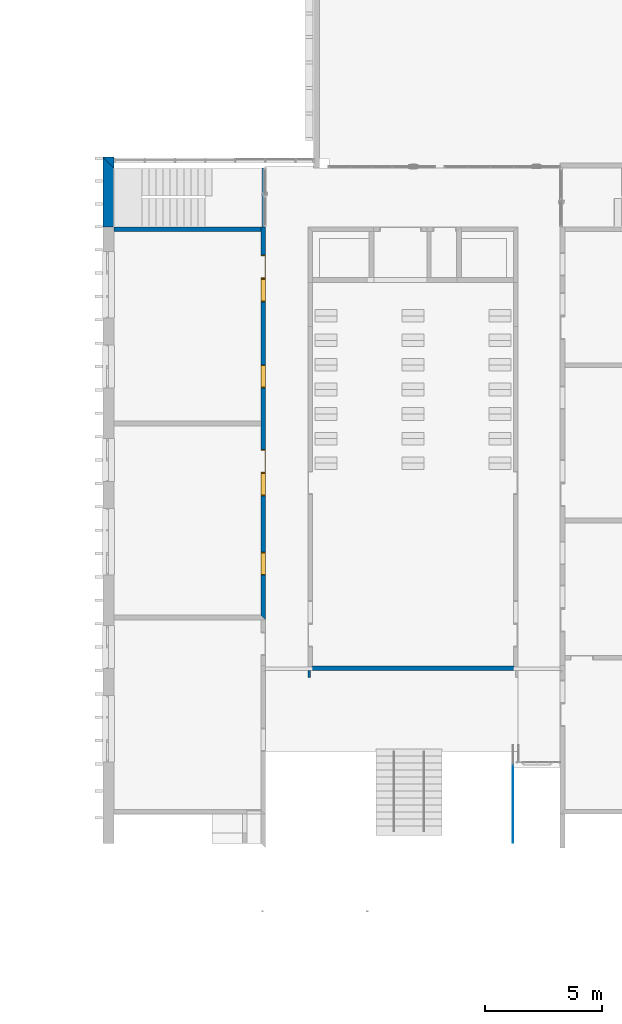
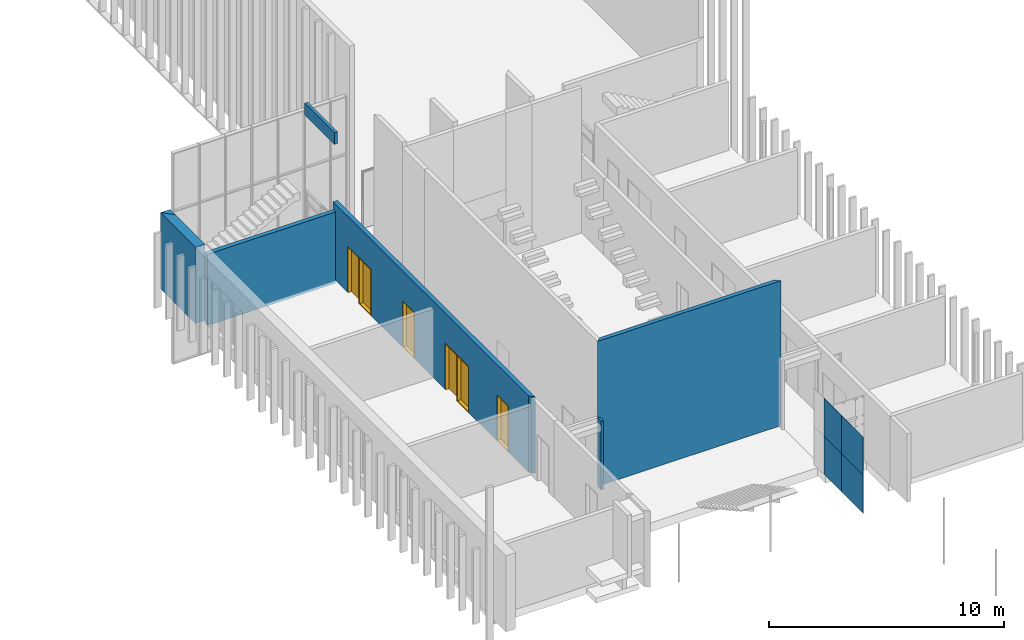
# One storey, part 11 of 62: 11 walls, 4 windows, 2 doors, 6 openings.
"""IFC2X3 building model written with IfcOpenShell, lengths in millimetres."""

from ifc_helpers import new_model, entity, si_unit, converted_unit, derived_unit, money_unit, direction, frame, origin_with_axes, origin_2d_with_axis, place, context, subcontext, project, spatial, polyline, rectangle, outline, extrude, open_shell, faceted_brep, surface_model, source, transform, mapped, material, layer, layer_set, layer_usage, type_object, element, fill, save


model = new_model("IFC2X3")

# Units and contexts
model_context = context("Model", 3, precision=0.01, world=origin_with_axes(), true_north=direction((0.0, 1.0)))
body_context = subcontext(model_context, "Body", "Model", "MODEL_VIEW")
ifc_project = project(units=[si_unit("LENGTHUNIT", "METRE", prefix="MILLI"), si_unit("AREAUNIT", "SQUARE_METRE"), si_unit("VOLUMEUNIT", "CUBIC_METRE"), converted_unit("PLANEANGLEUNIT", "DEGREE", entity("IfcPlaneAngleMeasure", 0.0174532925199), si_unit("PLANEANGLEUNIT", "RADIAN"), dimensions=[0, 0, 0, 0, 0, 0, 0]), si_unit("SOLIDANGLEUNIT", "STERADIAN"), money_unit("EUR"), converted_unit("TIMEUNIT", "Year", entity("IfcTimeMeasure", 31556926.0), si_unit("TIMEUNIT", "SECOND"), dimensions=[0, 0, 1, 0, 0, 0, 0]), si_unit("MASSUNIT", "GRAM", prefix="KILO"), si_unit("THERMODYNAMICTEMPERATUREUNIT", "DEGREE_CELSIUS"), si_unit("LUMINOUSINTENSITYUNIT", "LUMEN"), si_unit("ENERGYUNIT", "JOULE", prefix="MEGA"), derived_unit("THERMALCONDUCTANCEUNIT", [(si_unit("POWERUNIT", "WATT"), 1), (si_unit("LENGTHUNIT", "METRE"), -1), (si_unit("THERMODYNAMICTEMPERATUREUNIT", "KELVIN"), -1)]), derived_unit("SPECIFICHEATCAPACITYUNIT", [(si_unit("ENERGYUNIT", "JOULE"), 1), (si_unit("MASSUNIT", "GRAM", prefix="KILO"), -1), (si_unit("THERMODYNAMICTEMPERATUREUNIT", "KELVIN"), -1)]), derived_unit("MASSDENSITYUNIT", [(si_unit("MASSUNIT", "GRAM", prefix="KILO"), 1), (si_unit("VOLUMEUNIT", "CUBIC_METRE"), -1)])], contexts=[model_context])

# Site, building, storey
site_placement = place(None, origin_with_axes())
site = spatial("IfcSite", under=ifc_project, at=site_placement, Name="Puškini 31, Narva", CompositionType="ELEMENT")
building_placement = place(site_placement, origin_with_axes())
building = spatial("IfcBuilding", under=site, at=building_placement, Name="Narva Riigigümnaasium", CompositionType="ELEMENT")
storey_placement = place(building_placement, frame((0.0, 0.0, 660.0), z_axis=(0.0, 0.0, 1.0), x_axis=(1.0, 0.0, 0.0)))
storey = spatial("IfcBuildingStorey", under=building, at=storey_placement, Name="2.korrus +0.66", CompositionType="ELEMENT", Elevation=660.0)

# Walls
ifc_material_1 = material(Name="Betoon element")
ifc_layer_1 = layer(ifc_material_1, 200.0, ventilated="UNKNOWN")
ifc_layer_set_1 = layer_set([ifc_layer_1], Name="G-SS-01")
ifc_layer_usage_1 = layer_usage(ifc_layer_set_1, "AXIS2", "POSITIVE", 0.0)
wall_type_1 = type_object("IfcWallType", Name="G-SS-01 200", PredefinedType="NOTDEFINED")
wall_1_placement = place(storey_placement, frame((36699.9999995, 202300.000012, 0.0), z_axis=(0.0, 0.0, 1.0), x_axis=(1.0, 0.0, 0.0)))
element("IfcWallStandardCase", 1, at=wall_1_placement, inside=storey, type_object=wall_type_1, material=ifc_layer_usage_1, Name="Sisesein", context=body_context, shape_type="SweptSolid", body=[
    extrude(outline(polyline([(0.0, 0.0), (9000.00000063, 0.0), (8800.00000063, 200.0), (199.999999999, 200.0), (0.0, 0.0)])), origin_with_axes(), (0.0, 0.0, 1.0), 7520.0),
])
ifc_material_2 = material(Name="fassaadiplaat")
ifc_layer_2 = layer(ifc_material_2, 8.0, ventilated="UNKNOWN")
ifc_material_3 = material(Name="Salto-roovitus")
ifc_layer_3 = layer(ifc_material_3, 50.0, ventilated="UNKNOWN")
ifc_material_4 = material(Name="Salto-PIR soojustus")
ifc_layer_4 = layer(ifc_material_4, 50.0, ventilated="UNKNOWN")
ifc_layer_5 = layer(ifc_material_4, 150.0, ventilated="UNKNOWN")
ifc_layer_set_2 = layer_set([ifc_layer_2, ifc_layer_3, ifc_layer_4, ifc_layer_5, ifc_layer_1], Name="G-VS-01-01")
ifc_layer_usage_2 = layer_usage(ifc_layer_set_2, "AXIS2", "NEGATIVE", 458.0)
wall_type_2 = type_object("IfcWallType", Name="G-VS-01-01 458", PredefinedType="NOTDEFINED")
wall_2_placement = place(storey_placement, frame((28400.0401775, 221279.999999, 0.0), z_axis=(0.0, 0.0, 1.0), x_axis=(0.0, 1.0, 0.0)))
element("IfcWallStandardCase", 2, at=wall_2_placement, inside=storey, type_object=wall_type_2, material=ifc_layer_usage_2, Name="Välissein", context=body_context, shape_type="SweptSolid", body=[
    extrude(outline(polyline([(0.0, 0.0), (2519.99309264, 0.0), (2977.97942638, 458.0), (0.0, 458.0), (0.0, 0.0)])), origin_with_axes(), (0.0, 0.0, 1.0), 3960.0),
])
wall_3_placement = place(storey_placement, frame((28400.0401775, 223799.993091, 0.0), z_axis=(0.0, 0.0, 1.0), x_axis=(0.999999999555, 2.98394300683e-05, 0.0)))
element("IfcWallStandardCase", 3, at=wall_3_placement, inside=storey, type_object=wall_type_2, material=ifc_layer_usage_2, Name="Välissein", context=body_context, shape_type="SweptSolid", body=[
    extrude(outline(polyline([(0.0, 0.0), (10.0029830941, 0.0), (10.0029830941, 458.0), (-457.986333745, 458.0), (0.0, 0.0)])), origin_with_axes(), (0.0, 0.0, 1.0), 3960.0),
])
ifc_material_5 = material(Name="siseviimistlus-seinad")
ifc_layer_6 = layer(ifc_material_5, 15.0, ventilated="UNKNOWN")
ifc_material_6 = material(Name="Kipsplaat")
ifc_layer_7 = layer(ifc_material_6, 12.5, ventilated="UNKNOWN")
ifc_layer_8 = layer(ifc_material_6, 12.0, ventilated="UNKNOWN")
ifc_material_7 = material(Name="Karkass")
ifc_layer_9 = layer(ifc_material_7, 66.0, ventilated="UNKNOWN")
ifc_layer_set_3 = layer_set([ifc_layer_6, ifc_layer_7, ifc_layer_8, ifc_layer_9], Name="G-SS-06")
ifc_layer_usage_3 = layer_usage(ifc_layer_set_3, "AXIS2", "POSITIVE", 0.0)
wall_type_3 = type_object("IfcWallType", Name="G-SS-06 106", PredefinedType="NOTDEFINED")
wall_4_placement = place(storey_placement, frame((36705.9999995, 202300.000012, 0.0), z_axis=(0.0, 0.0, 1.0), x_axis=(0.0, -1.0, 0.0)))
element("IfcWallStandardCase", 4, at=wall_4_placement, inside=storey, type_object=wall_type_3, material=ifc_layer_usage_3, Name="Sisesein", context=body_context, shape_type="SweptSolid", body=[
    extrude(outline(polyline([(0.0, 0.0), (302.0, 0.0), (302.0, 105.5), (6.8212102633e-10, 105.5), (0.0, 0.0)])), origin_with_axes(), (0.0, 0.0, 1.0), 3555.0),
])
ifc_material_8 = material(Name="SKR-02_Kipsplaat")
ifc_layer_10 = layer(ifc_material_8, 12.5, ventilated="UNKNOWN")
ifc_material_9 = material(Name="SOJ-03_Soojustus - Mineraal Pehme")
ifc_layer_11 = layer(ifc_material_9, 100.0, ventilated="UNKNOWN")
ifc_layer_set_4 = layer_set([ifc_layer_10, ifc_layer_10, ifc_layer_11, ifc_layer_10, ifc_layer_10], Name="G-SS-09")
ifc_layer_usage_4 = layer_usage(ifc_layer_set_4, "AXIS2", "POSITIVE", 0.0)
wall_type_4 = type_object("IfcWallType", Name="G-SS-09 150", PredefinedType="NOTDEFINED")
wall_5_placement = place(storey_placement, frame((34899.9991047, 221279.988083, 6910.0), z_axis=(0.0, 0.0, 1.0), x_axis=(3.29119975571e-07, 1.0, 0.0)))
element("IfcWallStandardCase", 5, at=wall_5_placement, inside=storey, type_object=wall_type_4, material=ifc_layer_usage_4, Name="Sisesein", context=body_context, shape_type="SweptSolid", body=[
    extrude(outline(polyline([(0.0, 0.0), (2520.45889514, 0.0), (2520.45889514, 150.0), (0.0, 150.0), (0.0, 0.0)])), origin_with_axes(), (0.0, 0.0, 1.0), 610.0),
])
ifc_material_10 = material(Name="Klaas")
ifc_layer_12 = layer(ifc_material_10, 12.0, ventilated="UNKNOWN")
ifc_layer_set_5 = layer_set([ifc_layer_12], Name="Klaas 12")
ifc_layer_usage_5 = layer_usage(ifc_layer_set_5, "AXIS2", "POSITIVE", -12.0)
wall_type_5 = type_object("IfcWallType", Name="Klaas 12", PredefinedType="NOTDEFINED")
wall_6_placement = place(storey_placement, frame((45487.9999983, 198258.0, 1982.0), z_axis=(0.0, 0.0, 1.0), x_axis=(0.0, -1.0, 0.0)))
element("IfcWallStandardCase", 6, at=wall_6_placement, inside=storey, type_object=wall_type_5, material=ifc_layer_usage_5, Name="Sisesein", context=body_context, shape_type="SweptSolid", body=[
    extrude(outline(polyline([(0.0, -12.0), (1501.0, -12.0), (1501.0, 0.0), (0.0, 0.0), (0.0, -12.0)])), origin_with_axes(), (0.0, 0.0, 1.0), 1977.0),
])
wall_7_placement = place(storey_placement, frame((45487.9999983, 196753.0, 1982.0), z_axis=(0.0, 0.0, 1.0), x_axis=(0.0, -1.0, 0.0)))
element("IfcWallStandardCase", 7, at=wall_7_placement, inside=storey, type_object=wall_type_5, material=ifc_layer_usage_5, Name="Sisesein", context=body_context, shape_type="SweptSolid", body=[
    extrude(outline(polyline([(0.0, -12.0), (1827.0, -12.0), (1827.0, 0.0), (0.0, 0.0), (0.0, -12.0)])), origin_with_axes(), (0.0, 0.0, 1.0), 1977.0),
])
wall_8_placement = place(storey_placement, frame((45487.9999983, 198258.0, 1.0), z_axis=(0.0, 0.0, 1.0), x_axis=(0.0, -1.0, 0.0)))
element("IfcWallStandardCase", 8, at=wall_8_placement, inside=storey, type_object=wall_type_5, material=ifc_layer_usage_5, Name="Sisesein", context=body_context, shape_type="SweptSolid", body=[
    extrude(outline(polyline([(0.0, -12.0), (1501.0, -12.0), (1501.0, 0.0), (0.0, 0.0), (0.0, -12.0)])), origin_with_axes(), (0.0, 0.0, 1.0), 1977.0),
])
wall_9_placement = place(storey_placement, frame((45487.9999983, 196753.0, 1.0), z_axis=(0.0, 0.0, 1.0), x_axis=(0.0, -1.0, 0.0)))
element("IfcWallStandardCase", 9, at=wall_9_placement, inside=storey, type_object=wall_type_5, material=ifc_layer_usage_5, Name="Sisesein", context=body_context, shape_type="SweptSolid", body=[
    extrude(outline(polyline([(0.0, -12.0), (1827.0, -12.0), (1827.0, 0.0), (0.0, 0.0), (0.0, -12.0)])), origin_with_axes(), (0.0, 0.0, 1.0), 1977.0),
])

# Wall, openings, windows, doors
ifc_layer_13 = layer(ifc_material_5, 10.0, ventilated="UNKNOWN")
ifc_layer_set_6 = layer_set([ifc_layer_1, ifc_layer_13], Name="G-SS-01-02")
ifc_layer_usage_6 = layer_usage(ifc_layer_set_6, "AXIS2", "NEGATIVE", 0.0)
wall_type_6 = type_object("IfcWallType", Name="G-SS-01-02 210", PredefinedType="NOTDEFINED")
wall_10_placement = place(storey_placement, frame((34899.9991047, 221279.988083, 0.0), z_axis=(0.0, 0.0, 1.0), x_axis=(3.36798589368e-08, -1.0, 0.0)))
wall_10 = element("IfcWallStandardCase", 10, at=wall_10_placement, inside=storey, type_object=wall_type_6, material=ifc_layer_usage_6, Name="Sisesein", context=body_context, shape_type="SweptSolid", body=[
    extrude(outline(polyline([(0.0, -210.0), (16609.988069, -210.0), (16819.9880761, 0.0), (0.0, 0.0), (0.0, -210.0)])), origin_with_axes(), (0.0, 0.0, 1.0), 3960.0),
])
opening_1_placement = place(wall_10_placement, frame((11019.9871522, 0.0, 0.0), z_axis=(0.0, 0.0, 1.0), x_axis=(1.0, 0.0, 0.0)))
opening_1 = element("IfcOpeningElement", 11, at=opening_1_placement, cuts=wall_10, Name="G-SA-1", context=body_context, shape_type="SweptSolid", body=[
    extrude(rectangle(XDim=1000.0, YDim=2400.0, at=origin_2d_with_axis()), frame((0.0, -210.0, 1200.0), z_axis=(-3.36798589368e-08, -1.0, 0.0), x_axis=(-1.0, 3.36798591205e-08, 0.0)), (0.0, 0.0, -1.0), 630.0),
])
opening_2_placement = place(wall_10_placement, frame((14404.9877693, 0.0, 0.0), z_axis=(0.0, 0.0, 1.0), x_axis=(1.0, 0.0, 0.0)))
opening_2 = element("IfcOpeningElement", 12, at=opening_2_placement, cuts=wall_10, Name="G-SA-1", context=body_context, shape_type="SweptSolid", body=[
    extrude(rectangle(XDim=1000.0, YDim=2400.0, at=origin_2d_with_axis()), frame((0.0, -210.0, 1200.0), z_axis=(3.36798589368e-08, 1.0, 0.0), x_axis=(1.0, -3.36798591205e-08, 0.0)), (0.0, 0.0, 1.0), 630.0),
])
opening_3_placement = place(wall_10_placement, frame((2709.99960801, 0.0, 0.0), z_axis=(0.0, 0.0, 1.0), x_axis=(1.0, 0.0, 0.0)))
opening_3 = element("IfcOpeningElement", 13, at=opening_3_placement, cuts=wall_10, Name="G-SA-1", context=body_context, shape_type="SweptSolid", body=[
    extrude(rectangle(XDim=1000.0, YDim=2400.0, at=origin_2d_with_axis()), frame((0.0, -210.0, 1200.0), z_axis=(-3.36798589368e-08, -1.0, 0.0), x_axis=(-1.0, 3.36798591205e-08, 0.0)), (0.0, 0.0, -1.0), 630.0),
])
opening_4_placement = place(wall_10_placement, frame((6404.98776896, 0.0, 0.0), z_axis=(0.0, 0.0, 1.0), x_axis=(1.0, 0.0, 0.0)))
opening_4 = element("IfcOpeningElement", 14, at=opening_4_placement, cuts=wall_10, Name="G-SA-1", context=body_context, shape_type="SweptSolid", body=[
    extrude(rectangle(XDim=1000.0, YDim=2400.0, at=origin_2d_with_axis()), frame((0.0, -210.0, 1200.0), z_axis=(3.36798589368e-08, 1.0, 0.0), x_axis=(1.0, -3.36798591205e-08, 0.0)), (0.0, 0.0, 1.0), 630.0),
])
opening_5_placement = place(wall_10_placement, frame((1709.99960801, 0.0, 0.0), z_axis=(0.0, 0.0, 1.0), x_axis=(1.0, 0.0, 0.0)))
opening_5 = element("IfcOpeningElement", 15, at=opening_5_placement, cuts=wall_10, Name="G-SU-072", context=body_context, shape_type="SweptSolid", body=[
    extrude(rectangle(XDim=1000.0, YDim=2400.0, at=origin_2d_with_axis()), frame((0.0, -210.0, 1200.0), z_axis=(-3.36798589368e-08, -1.0, 0.0), x_axis=(-1.0, 3.36798591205e-08, 0.0)), (0.0, 0.0, -1.0), 630.0),
])
opening_6_placement = place(wall_10_placement, frame((10019.9871522, 0.0, 0.0), z_axis=(0.0, 0.0, 1.0), x_axis=(1.0, 0.0, 0.0)))
opening_6 = element("IfcOpeningElement", 16, at=opening_6_placement, cuts=wall_10, Name="G-SU-071", context=body_context, shape_type="SweptSolid", body=[
    extrude(rectangle(XDim=1000.0, YDim=2400.0, at=origin_2d_with_axis()), frame((0.0, -210.0, 1200.0), z_axis=(-3.36798589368e-08, -1.0, 0.0), x_axis=(-1.0, 3.36798591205e-08, 0.0)), (0.0, 0.0, -1.0), 630.0),
])
window_style = type_object("IfcWindowStyle", Name="Window 23", ConstructionType="NOTDEFINED", OperationType="SINGLE_PANEL", ParameterTakesPrecedence=False, Sizeable=False)
shared_shape_1 = source(origin_with_axes(), body_context, "Body", "SurfaceModel", [
    faceted_brep([(-460.0, -210.0, 2360.0), (-460.0, 0.0, 2360.0), (-500.0, 0.0, 2360.0), (-500.0, -210.0, 2360.0), (-460.0, -210.0, 40.0), (-460.0, 0.0, 40.0), (-500.0, 0.0, 40.0), (-500.0, -210.0, 40.0)], [[[0, 1, 2, 3]], [[4, 5, 1, 0]], [[1, 5, 6, 2]], [[3, 2, 6, 7]], [[0, 3, 7, 4]], [[7, 6, 5, 4]]]),
    faceted_brep([(460.0, -210.0, 40.0), (460.0, 0.0, 40.0), (500.0, 0.0, 40.0), (500.0, -210.0, 40.0), (460.0, -210.0, 2360.0), (460.0, 0.0, 2360.0), (500.0, 0.0, 2360.0), (500.0, -210.0, 2360.0)], [[[0, 1, 2, 3]], [[4, 5, 1, 0]], [[1, 5, 6, 2]], [[3, 2, 6, 7]], [[0, 3, 7, 4]], [[7, 6, 5, 4]]]),
    faceted_brep([(-460.0, -210.0, 40.0), (-460.0, 0.0, 40.0), (-500.0, 0.0, 40.0), (-500.0, -210.0, 40.0), (460.0, -210.0, 40.0), (460.0, 0.0, 40.0), (500.0, 0.0, 40.0), (500.0, 0.0, 0.0), (-500.0, 0.0, 0.0), (-500.0, -210.0, 0.0), (500.0, -210.0, 0.0), (500.0, -210.0, 40.0)], [[[0, 1, 2, 3]], [[4, 5, 1, 0]], [[1, 5, 6, 7, 8, 2]], [[3, 2, 8, 9]], [[0, 3, 9, 10, 11, 4]], [[11, 6, 5, 4]], [[10, 7, 6, 11]], [[9, 8, 7, 10]]]),
    faceted_brep([(460.0, -210.0, 2360.0), (460.0, 0.0, 2360.0), (500.0, 0.0, 2360.0), (500.0, -210.0, 2360.0), (-460.0, -210.0, 2360.0), (-460.0, 0.0, 2360.0), (-500.0, 0.0, 2360.0), (-500.0, 0.0, 2400.0), (500.0, 0.0, 2400.0), (500.0, -210.0, 2400.0), (-500.0, -210.0, 2400.0), (-500.0, -210.0, 2360.0)], [[[0, 1, 2, 3]], [[4, 5, 1, 0]], [[1, 5, 6, 7, 8, 2]], [[3, 2, 8, 9]], [[0, 3, 9, 10, 11, 4]], [[11, 6, 5, 4]], [[10, 7, 6, 11]], [[9, 8, 7, 10]]]),
    surface_model("IfcShellBasedSurfaceModel", [(-460.0, -35.0, 40.0), (460.0, -35.0, 40.0), (460.0, -35.0, 2360.0), (-460.0, -35.0, 2360.0)], [open_shell([[[0, 1, 2, 3]]])]),
    surface_model("IfcShellBasedSurfaceModel", [(-460.0, -15.0, 40.0), (-460.0, -15.0, 2360.0), (460.0, -15.0, 2360.0), (460.0, -15.0, 40.0)], [open_shell([[[0, 1, 2, 3]]])]),
])
window_1_placement = place(opening_2_placement, frame((-500.0, 0.0, 0.0), z_axis=(0.0, 0.0, 1.0), x_axis=(1.0, 0.0, 0.0)))
window_1 = element("IfcWindow", 17, at=window_1_placement, inside=storey, type_object=window_style, Name="G-SA-1", ObjectType="WINDOW", OverallHeight=2400.0, OverallWidth=1000.0, context=body_context, shape_type="MappedRepresentation", body=[
    mapped(shared_shape_1, transform((500.000007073, -0.000485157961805, 0.0))),
])
fill(opening_2, window_1)
window_2_placement = place(opening_4_placement, frame((-500.0, 0.0, 0.0), z_axis=(0.0, 0.0, 1.0), x_axis=(1.0, 0.0, 0.0)))
window_2 = element("IfcWindow", 18, at=window_2_placement, inside=storey, type_object=window_style, Name="G-SA-1", ObjectType="WINDOW", OverallHeight=2400.0, OverallWidth=1000.0, context=body_context, shape_type="MappedRepresentation", body=[
    mapped(shared_shape_1, transform((500.000007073, -0.00021571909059, 0.0))),
])
fill(opening_4, window_2)
shared_shape_2 = source(origin_with_axes(), body_context, "Body", "SurfaceModel", [
    faceted_brep([(460.0, -210.0, 2360.0), (500.0, -210.0, 2360.0), (500.0, 0.0, 2360.0), (460.0, 0.0, 2360.0), (460.0, -210.0, 40.0), (500.0, -210.0, 40.0), (500.0, 0.0, 40.0), (460.0, 0.0, 40.0)], [[[0, 1, 2, 3]], [[0, 4, 5, 1]], [[1, 5, 6, 2]], [[3, 2, 6, 7]], [[4, 0, 3, 7]], [[5, 4, 7, 6]]]),
    faceted_brep([(-460.0, -210.0, 40.0), (-500.0, -210.0, 40.0), (-500.0, 0.0, 40.0), (-460.0, 0.0, 40.0), (-460.0, -210.0, 2360.0), (-500.0, -210.0, 2360.0), (-500.0, 0.0, 2360.0), (-460.0, 0.0, 2360.0)], [[[0, 1, 2, 3]], [[0, 4, 5, 1]], [[1, 5, 6, 2]], [[3, 2, 6, 7]], [[4, 0, 3, 7]], [[5, 4, 7, 6]]]),
    faceted_brep([(460.0, -210.0, 40.0), (500.0, -210.0, 40.0), (500.0, 0.0, 40.0), (460.0, 0.0, 40.0), (-460.0, -210.0, 40.0), (-500.0, -210.0, 40.0), (-500.0, -210.0, 0.0), (500.0, -210.0, 0.0), (500.0, 0.0, 0.0), (-500.0, 0.0, 0.0), (-500.0, 0.0, 40.0), (-460.0, 0.0, 40.0)], [[[0, 1, 2, 3]], [[0, 4, 5, 6, 7, 1]], [[1, 7, 8, 2]], [[3, 2, 8, 9, 10, 11]], [[4, 0, 3, 11]], [[5, 4, 11, 10]], [[6, 5, 10, 9]], [[7, 6, 9, 8]]]),
    faceted_brep([(-460.0, -210.0, 2360.0), (-500.0, -210.0, 2360.0), (-500.0, 0.0, 2360.0), (-460.0, 0.0, 2360.0), (460.0, -210.0, 2360.0), (500.0, -210.0, 2360.0), (500.0, -210.0, 2400.0), (-500.0, -210.0, 2400.0), (-500.0, 0.0, 2400.0), (500.0, 0.0, 2400.0), (500.0, 0.0, 2360.0), (460.0, 0.0, 2360.0)], [[[0, 1, 2, 3]], [[0, 4, 5, 6, 7, 1]], [[1, 7, 8, 2]], [[3, 2, 8, 9, 10, 11]], [[4, 0, 3, 11]], [[5, 4, 11, 10]], [[6, 5, 10, 9]], [[7, 6, 9, 8]]]),
    surface_model("IfcShellBasedSurfaceModel", [(460.0, -35.0, 40.0), (460.0, -35.0, 2360.0), (-460.0, -35.0, 2360.0), (-460.0, -35.0, 40.0)], [open_shell([[[0, 1, 2, 3]]])]),
    surface_model("IfcShellBasedSurfaceModel", [(460.0, -15.0, 40.0), (-460.0, -15.0, 40.0), (-460.0, -15.0, 2360.0), (460.0, -15.0, 2360.0)], [open_shell([[[0, 1, 2, 3]]])]),
])
window_3_placement = place(opening_1_placement, frame((-500.0, 0.0, 0.0), z_axis=(0.0, 0.0, 1.0), x_axis=(1.0, 0.0, 0.0)))
window_3 = element("IfcWindow", 19, at=window_3_placement, inside=storey, type_object=window_style, Name="G-SA-1", ObjectType="WINDOW", OverallHeight=2400.0, OverallWidth=1000.0, context=body_context, shape_type="MappedRepresentation", body=[
    mapped(shared_shape_2, transform((500.000007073, -0.000371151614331, 0.0))),
])
fill(opening_1, window_3)
window_4_placement = place(opening_3_placement, frame((-500.0, 0.0, 0.0), z_axis=(0.0, 0.0, 1.0), x_axis=(1.0, 0.0, 0.0)))
window_4 = element("IfcWindow", 20, at=window_4_placement, inside=storey, type_object=window_style, Name="G-SA-1", ObjectType="WINDOW", OverallHeight=2400.0, OverallWidth=1000.0, context=body_context, shape_type="MappedRepresentation", body=[
    mapped(shared_shape_2, transform((500.000007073, -9.12724047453e-05, 0.0))),
])
fill(opening_3, window_4)
door_style = type_object("IfcDoorStyle", Name="Door 23", ConstructionType="NOTDEFINED", OperationType="SINGLE_SWING_LEFT", ParameterTakesPrecedence=False, Sizeable=False)
shared_shape_3 = source(origin_with_axes(), body_context, "Body", "Brep", [
    faceted_brep([(500.0, 0.0, 0.0), (500.0, -210.0, 0.0), (460.0, -210.0, 0.0), (460.0, 0.0, 0.0), (500.0, 0.0, 2360.0), (500.0, -210.0, 2360.0), (460.0, -210.0, 2360.0), (460.0, 0.0, 2360.0)], [[[0, 1, 2, 3]], [[4, 5, 1, 0]], [[1, 5, 6, 2]], [[3, 2, 6, 7]], [[0, 3, 7, 4]], [[7, 6, 5, 4]]]),
    faceted_brep([(-500.0, 0.0, 0.0), (-500.0, -210.0, 0.0), (-500.0, -210.0, 2360.0), (-500.0, 0.0, 2360.0), (-460.0, 0.0, 0.0), (-460.0, -210.0, 0.0), (-460.0, -210.0, 2360.0), (-460.0, 0.0, 2360.0)], [[[0, 1, 2, 3]], [[4, 5, 1, 0]], [[1, 5, 6, 2]], [[3, 2, 6, 7]], [[0, 3, 7, 4]], [[7, 6, 5, 4]]]),
    faceted_brep([(500.0, 0.0, 2400.0), (500.0, -210.0, 2400.0), (500.0, -210.0, 2360.0), (500.0, 0.0, 2360.0), (-500.0, 0.0, 2400.0), (-500.0, -210.0, 2400.0), (-500.0, -210.0, 2360.0), (-460.0, -210.0, 2360.0), (460.0, -210.0, 2360.0), (460.0, 0.0, 2360.0), (-460.0, 0.0, 2360.0), (-500.0, 0.0, 2360.0)], [[[0, 1, 2, 3]], [[4, 5, 1, 0]], [[1, 5, 6, 7, 8, 2]], [[3, 2, 8, 9]], [[0, 3, 9, 10, 11, 4]], [[11, 6, 5, 4]], [[10, 7, 6, 11]], [[9, 8, 7, 10]]]),
    faceted_brep([(-460.0, 0.0, 0.0), (460.0, 0.0, 0.0), (460.0, -40.0, 0.0), (-460.0, -40.0, 0.0), (-460.0, 0.0, 2360.0), (460.0, 0.0, 2360.0), (460.0, -40.0, 2360.0), (-460.0, -40.0, 2360.0)], [[[0, 1, 2, 3]], [[0, 4, 5, 1]], [[1, 5, 6, 2]], [[3, 2, 6, 7]], [[4, 0, 3, 7]], [[5, 4, 7, 6]]]),
])
door_1_placement = place(opening_5_placement, frame((-500.0, 0.0, 0.0), z_axis=(0.0, 0.0, 1.0), x_axis=(1.0, 0.0, 0.0)))
door_1 = element("IfcDoor", 21, at=door_1_placement, inside=storey, type_object=door_style, Name="G-SU-072", ObjectType="DOOR", OverallHeight=2400.0, OverallWidth=1000.0, context=body_context, shape_type="MappedRepresentation", body=[
    mapped(shared_shape_3, transform((500.000007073, -5.75925511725e-05, 0.0))),
])
fill(opening_5, door_1)
door_2_placement = place(opening_6_placement, frame((-500.0, 0.0, 0.0), z_axis=(0.0, 0.0, 1.0), x_axis=(1.0, 0.0, 0.0)))
door_2 = element("IfcDoor", 22, at=door_2_placement, inside=storey, type_object=door_style, Name="G-SU-071", ObjectType="DOOR", OverallHeight=2400.0, OverallWidth=1000.0, context=body_context, shape_type="MappedRepresentation", body=[
    mapped(shared_shape_3, transform((500.000007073, -0.000337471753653, 0.0))),
])
fill(opening_6, door_2)

# Wall
ifc_layer_usage_7 = layer_usage(ifc_layer_set_6, "AXIS2", "NEGATIVE", 200.0)
wall_11_placement = place(storey_placement, frame((28400.0433151, 221080.000017, -140.0), z_axis=(0.0, 0.0, 1.0), x_axis=(0.999999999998, -1.83597431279e-06, 0.0)))
element("IfcWallStandardCase", 23, at=wall_11_placement, inside=storey, type_object=wall_type_6, material=ifc_layer_usage_7, Name="Sisesein", context=body_context, shape_type="SweptSolid", body=[
    extrude(outline(polyline([(9.99688074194, -10.0), (6289.95581506, -10.0), (6289.95542244, 200.0), (9.99649518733, 200.0), (9.99688074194, -10.0)])), origin_with_axes(), (0.0, 0.0, 1.0), 3700.0),
])

save(model, "model.ifc")
